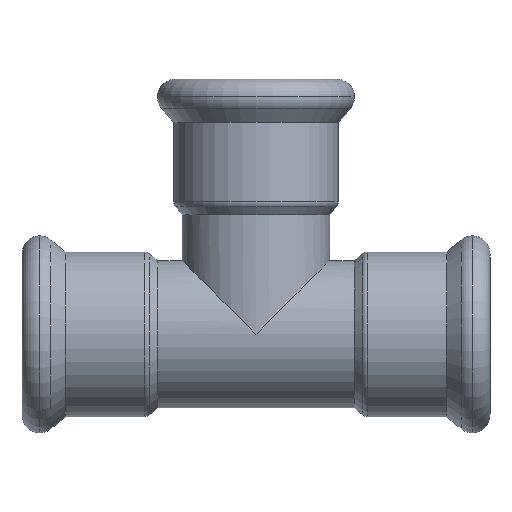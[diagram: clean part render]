
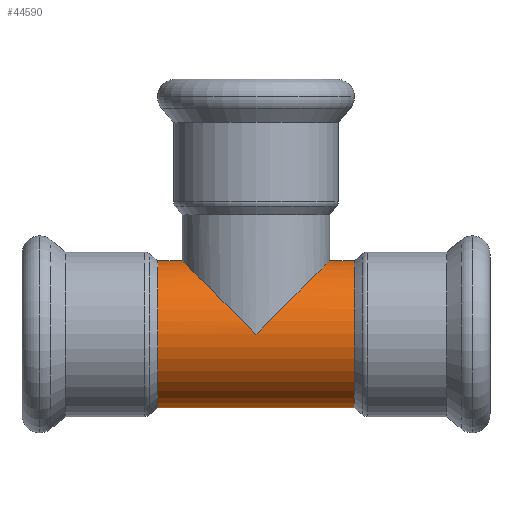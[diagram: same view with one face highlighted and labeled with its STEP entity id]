
A CAD part, top view. The second image highlights one B-rep face of the part: STEP entity #44590.
In plain terms, the highlighted cylindrical face has radius 14 mm (diameter 28 mm), a partial arc.
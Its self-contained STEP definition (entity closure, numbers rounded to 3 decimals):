
#14190=CARTESIAN_POINT('',(-390.306,33.173,
0.));
#14200=VERTEX_POINT('',#14190);
#14280=CARTESIAN_POINT('',(-418.306,33.173,0.));
#14290=VERTEX_POINT('',#14280);
#14320=CARTESIAN_POINT('',(-404.306,19.173,0.));
#14330=DIRECTION('',(0.707,0.707,0.));
#14340=DIRECTION('',(-0.707,0.707,0.));
#14350=AXIS2_PLACEMENT_3D('',#14320,#14330,#14340);
#14360=ELLIPSE('',#14350,19.799,14.);
#14410=CARTESIAN_POINT('',(-404.306,19.173,0.));
#14420=DIRECTION('',(-0.707,0.707,0.));
#14430=DIRECTION('',(0.707,0.707,0.));
#14440=AXIS2_PLACEMENT_3D('',#14410,#14420,#14430);
#14450=ELLIPSE('',#14440,19.799,14.);
#14510=CARTESIAN_POINT('',(-423.006,19.173,0.));
#14520=DIRECTION('',(-1.,0.,0.));
#14530=DIRECTION('',(0.,1.,0.));
#14540=AXIS2_PLACEMENT_3D('',#14510,#14520,#14530);
#14550=CYLINDRICAL_SURFACE('',#14540,14.);
#14560=CARTESIAN_POINT('',(-423.006,33.173,0.));
#14570=DIRECTION('',(-1.,0.,0.));
#14580=VECTOR('',#14570,1.);
#14590=LINE('',#14560,#14580);
#14600=CARTESIAN_POINT('',(-385.606,33.173,0.));
#14610=VERTEX_POINT('',#14600);
#14620=EDGE_CURVE('',#14610,#14200,#14590,.T.);
#14660=CARTESIAN_POINT('',(-423.006,33.173,0.));
#14670=VERTEX_POINT('',#14660);
#14680=EDGE_CURVE('',#14290,#14670,#14590,.T.);
#14700=CARTESIAN_POINT('',(-423.006,19.173,0.));
#14710=DIRECTION('',(-1.,0.,0.));
#14720=DIRECTION('',(0.,1.,0.));
#14730=AXIS2_PLACEMENT_3D('',#14700,#14710,#14720);
#14740=CIRCLE('',#14730,14.);
#14750=CARTESIAN_POINT('',(-423.006,5.173,
0.));
#14760=VERTEX_POINT('',#14750);
#14790=CARTESIAN_POINT('',(-423.006,5.173,
0.));
#14800=DIRECTION('',(-1.,0.,0.));
#14810=VECTOR('',#14800,1.);
#14820=LINE('',#14790,#14810);
#14830=CARTESIAN_POINT('',(-385.606,5.173,
0.));
#14840=VERTEX_POINT('',#14830);
#14850=EDGE_CURVE('',#14840,#14760,#14820,.T.);
#14870=CARTESIAN_POINT('',(-385.606,19.173,0.));
#14880=DIRECTION('',(1.,0.,0.));
#14890=DIRECTION('',(0.,-1.,0.));
#14900=AXIS2_PLACEMENT_3D('',#14870,#14880,#14890);
#14910=CIRCLE('',#14900,14.);
#32970=EDGE_CURVE('',#14760,#14670,#14740,.T.);
#43430=EDGE_CURVE('',#14610,#14840,#14910,.T.);
#44090=CARTESIAN_POINT('',(-404.306,19.173,14.));
#44100=VERTEX_POINT('',#44090);
#44110=EDGE_CURVE('',#44100,#14200,#14450,.T.);
#44130=EDGE_CURVE('',#14290,#44100,#14360,.T.);
#44500=ORIENTED_EDGE('',*,*,#14680,.T.);
#44510=ORIENTED_EDGE('',*,*,#44130,.F.);
#44520=ORIENTED_EDGE('',*,*,#44110,.F.);
#44530=ORIENTED_EDGE('',*,*,#14620,.T.);
#44540=ORIENTED_EDGE('',*,*,#43430,.F.);
#44550=ORIENTED_EDGE('',*,*,#14850,.F.);
#44560=ORIENTED_EDGE('',*,*,#32970,.F.);
#44570=EDGE_LOOP('',(#44560,#44550,#44540,#44530,#44520,#44510,#44500));
#44580=FACE_OUTER_BOUND('',#44570,.T.);
#44590=ADVANCED_FACE('',(#44580),#14550,.T.);
